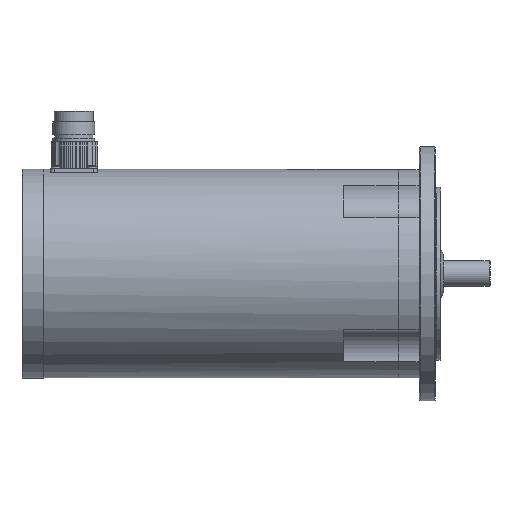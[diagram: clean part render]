
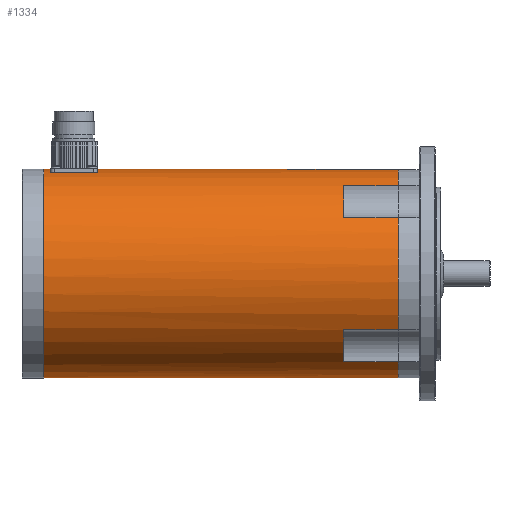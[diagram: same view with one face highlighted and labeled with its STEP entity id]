
A CAD part, left-side view. The second image highlights one B-rep face of the part: STEP entity #1334.
In plain terms, the highlighted cylindrical face has radius 57.5 mm (diameter 115 mm), a full revolution.
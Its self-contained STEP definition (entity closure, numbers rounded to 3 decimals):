
#281=LINE('',#8002,#437);
#282=LINE('',#8007,#438);
#283=LINE('',#8010,#439);
#284=LINE('',#8012,#440);
#285=LINE('',#8016,#441);
#286=LINE('',#8017,#442);
#287=LINE('',#8021,#443);
#288=LINE('',#8022,#444);
#289=LINE('',#8026,#445);
#290=LINE('',#8027,#446);
#437=VECTOR('',#6286,1.);
#438=VECTOR('',#6289,1.);
#439=VECTOR('',#6292,1.);
#440=VECTOR('',#6293,1.);
#441=VECTOR('',#6296,1.);
#442=VECTOR('',#6297,1.);
#443=VECTOR('',#6300,1.);
#444=VECTOR('',#6301,1.);
#445=VECTOR('',#6304,1.);
#446=VECTOR('',#6305,1.);
#803=CYLINDRICAL_SURFACE('',#5291,57.5);
#1041=FACE_BOUND('',#2115,.T.);
#1042=FACE_BOUND('',#2116,.T.);
#1043=FACE_BOUND('',#2117,.T.);
#1334=ADVANCED_FACE('',(#1041,#1042,#1043),#803,.T.);
#2115=EDGE_LOOP('',(#2764,#2765,#2766,#2767));
#2116=EDGE_LOOP('',(#2768,#2769,#2770,#2771,#2772,#2773,#2774,#2775,#2776,
#2777,#2778,#2779,#2780,#2781,#2782,#2783));
#2117=EDGE_LOOP('',(#2784));
#2764=ORIENTED_EDGE('',*,*,#4219,.F.);
#2765=ORIENTED_EDGE('',*,*,#4220,.F.);
#2766=ORIENTED_EDGE('',*,*,#4221,.F.);
#2767=ORIENTED_EDGE('',*,*,#4222,.F.);
#2768=ORIENTED_EDGE('',*,*,#4223,.F.);
#2769=ORIENTED_EDGE('',*,*,#4217,.T.);
#2770=ORIENTED_EDGE('',*,*,#4224,.F.);
#2771=ORIENTED_EDGE('',*,*,#4225,.F.);
#2772=ORIENTED_EDGE('',*,*,#4226,.F.);
#2773=ORIENTED_EDGE('',*,*,#4215,.T.);
#2774=ORIENTED_EDGE('',*,*,#4227,.F.);
#2775=ORIENTED_EDGE('',*,*,#4228,.F.);
#2776=ORIENTED_EDGE('',*,*,#4229,.F.);
#2777=ORIENTED_EDGE('',*,*,#4213,.T.);
#2778=ORIENTED_EDGE('',*,*,#4230,.F.);
#2779=ORIENTED_EDGE('',*,*,#4231,.F.);
#2780=ORIENTED_EDGE('',*,*,#4232,.F.);
#2781=ORIENTED_EDGE('',*,*,#4211,.T.);
#2782=ORIENTED_EDGE('',*,*,#4233,.F.);
#2783=ORIENTED_EDGE('',*,*,#4234,.F.);
#2784=ORIENTED_EDGE('',*,*,#4209,.T.);
#3742=VERTEX_POINT('',#7981);
#3743=VERTEX_POINT('',#7984);
#3744=VERTEX_POINT('',#7985);
#3745=VERTEX_POINT('',#7987);
#3746=VERTEX_POINT('',#7989);
#3747=VERTEX_POINT('',#7991);
#3748=VERTEX_POINT('',#7993);
#3749=VERTEX_POINT('',#7995);
#3750=VERTEX_POINT('',#7997);
#3752=VERTEX_POINT('',#8003);
#3753=VERTEX_POINT('',#8004);
#3754=VERTEX_POINT('',#8006);
#3755=VERTEX_POINT('',#8008);
#3756=VERTEX_POINT('',#8011);
#3757=VERTEX_POINT('',#8013);
#3758=VERTEX_POINT('',#8015);
#3759=VERTEX_POINT('',#8018);
#3760=VERTEX_POINT('',#8020);
#3761=VERTEX_POINT('',#8023);
#3762=VERTEX_POINT('',#8025);
#3763=VERTEX_POINT('',#8028);
#4209=EDGE_CURVE('',#3742,#3742,#4769,.T.);
#4211=EDGE_CURVE('',#3745,#3744,#4771,.T.);
#4213=EDGE_CURVE('',#3747,#3746,#4773,.T.);
#4215=EDGE_CURVE('',#3749,#3748,#4775,.T.);
#4217=EDGE_CURVE('',#3743,#3750,#4777,.T.);
#4219=EDGE_CURVE('',#3752,#3753,#281,.T.);
#4220=EDGE_CURVE('',#3754,#3752,#4779,.T.);
#4221=EDGE_CURVE('',#3755,#3754,#282,.T.);
#4222=EDGE_CURVE('',#3753,#3755,#4780,.T.);
#4223=EDGE_CURVE('',#3743,#3756,#283,.T.);
#4224=EDGE_CURVE('',#3757,#3750,#284,.T.);
#4225=EDGE_CURVE('',#3758,#3757,#4781,.T.);
#4226=EDGE_CURVE('',#3749,#3758,#285,.T.);
#4227=EDGE_CURVE('',#3759,#3748,#286,.T.);
#4228=EDGE_CURVE('',#3760,#3759,#4782,.T.);
#4229=EDGE_CURVE('',#3747,#3760,#287,.T.);
#4230=EDGE_CURVE('',#3761,#3746,#288,.T.);
#4231=EDGE_CURVE('',#3762,#3761,#4783,.T.);
#4232=EDGE_CURVE('',#3745,#3762,#289,.T.);
#4233=EDGE_CURVE('',#3763,#3744,#290,.T.);
#4234=EDGE_CURVE('',#3756,#3763,#4784,.T.);
#4769=CIRCLE('',#5273,57.5);
#4771=CIRCLE('',#5276,57.5);
#4773=CIRCLE('',#5278,57.5);
#4775=CIRCLE('',#5280,57.5);
#4777=CIRCLE('',#5282,57.5);
#4779=CIRCLE('',#5285,57.5);
#4780=CIRCLE('',#5286,57.5);
#4781=CIRCLE('',#5287,57.5);
#4782=CIRCLE('',#5288,57.5);
#4783=CIRCLE('',#5289,57.5);
#4784=CIRCLE('',#5290,57.5);
#5273=AXIS2_PLACEMENT_3D('',#7980,#6262,#6263);
#5276=AXIS2_PLACEMENT_3D('',#7986,#6268,#6269);
#5278=AXIS2_PLACEMENT_3D('',#7990,#6272,#6273);
#5280=AXIS2_PLACEMENT_3D('',#7994,#6276,#6277);
#5282=AXIS2_PLACEMENT_3D('',#7998,#6280,#6281);
#5285=AXIS2_PLACEMENT_3D('',#8005,#6287,#6288);
#5286=AXIS2_PLACEMENT_3D('',#8009,#6290,#6291);
#5287=AXIS2_PLACEMENT_3D('',#8014,#6294,#6295);
#5288=AXIS2_PLACEMENT_3D('',#8019,#6298,#6299);
#5289=AXIS2_PLACEMENT_3D('',#8024,#6302,#6303);
#5290=AXIS2_PLACEMENT_3D('',#8029,#6306,#6307);
#5291=AXIS2_PLACEMENT_3D('',#8030,#6308,#6309);
#6262=DIRECTION('',(0.,-1.,0.));
#6263=DIRECTION('',(0.,0.,-1.));
#6268=DIRECTION('',(0.,1.,0.));
#6269=DIRECTION('',(0.,0.,1.));
#6272=DIRECTION('',(0.,1.,0.));
#6273=DIRECTION('',(0.,0.,1.));
#6276=DIRECTION('',(0.,1.,0.));
#6277=DIRECTION('',(0.,0.,1.));
#6280=DIRECTION('',(0.,1.,0.));
#6281=DIRECTION('',(0.,0.,1.));
#6286=DIRECTION('',(0.,-1.,0.));
#6287=DIRECTION('',(0.,-1.,0.));
#6288=DIRECTION('',(0.,0.,1.));
#6289=DIRECTION('',(0.,1.,0.));
#6290=DIRECTION('',(0.,1.,0.));
#6291=DIRECTION('',(0.,0.,-1.));
#6292=DIRECTION('',(0.,1.,0.));
#6293=DIRECTION('',(0.,-1.,0.));
#6294=DIRECTION('',(0.,-1.,0.));
#6295=DIRECTION('',(0.,0.,1.));
#6296=DIRECTION('',(0.,1.,0.));
#6297=DIRECTION('',(0.,-1.,0.));
#6298=DIRECTION('',(0.,-1.,0.));
#6299=DIRECTION('',(0.,0.,1.));
#6300=DIRECTION('',(0.,1.,0.));
#6301=DIRECTION('',(0.,-1.,0.));
#6302=DIRECTION('',(0.,-1.,0.));
#6303=DIRECTION('',(0.,0.,1.));
#6304=DIRECTION('',(0.,1.,0.));
#6305=DIRECTION('',(0.,-1.,0.));
#6306=DIRECTION('',(0.,-1.,0.));
#6307=DIRECTION('',(0.,0.,1.));
#6308=DIRECTION('',(0.,1.,0.));
#6309=DIRECTION('',(0.,0.,1.));
#7980=CARTESIAN_POINT('',(0.,195.,0.));
#7981=CARTESIAN_POINT('',(0.,195.,-57.5));
#7984=CARTESIAN_POINT('',(-30.889,0.,48.498));
#7985=CARTESIAN_POINT('',(-48.498,0.,30.889));
#7986=CARTESIAN_POINT('',(0.,0.,0.));
#7987=CARTESIAN_POINT('',(-48.498,0.,-30.889));
#7989=CARTESIAN_POINT('',(-30.889,0.,-48.498));
#7990=CARTESIAN_POINT('',(0.,0.,0.));
#7991=CARTESIAN_POINT('',(30.889,0.,-48.498));
#7993=CARTESIAN_POINT('',(48.498,0.,-30.889));
#7994=CARTESIAN_POINT('',(0.,0.,0.));
#7995=CARTESIAN_POINT('',(48.498,0.,30.889));
#7997=CARTESIAN_POINT('',(30.889,0.,48.498));
#7998=CARTESIAN_POINT('',(0.,0.,0.));
#8002=CARTESIAN_POINT('',(-15.,0.,55.509));
#8003=CARTESIAN_POINT('',(-15.,191.5,55.509));
#8004=CARTESIAN_POINT('',(-15.,165.5,55.509));
#8005=CARTESIAN_POINT('',(0.,191.5,0.));
#8006=CARTESIAN_POINT('',(15.,191.5,55.509));
#8007=CARTESIAN_POINT('',(15.,0.,55.509));
#8008=CARTESIAN_POINT('',(15.,165.5,55.509));
#8009=CARTESIAN_POINT('',(0.,165.5,0.));
#8010=CARTESIAN_POINT('',(-30.889,15.,48.498));
#8011=CARTESIAN_POINT('',(-30.889,30.,48.498));
#8012=CARTESIAN_POINT('',(30.889,15.,48.498));
#8013=CARTESIAN_POINT('',(30.889,30.,48.498));
#8014=CARTESIAN_POINT('',(0.,30.,0.));
#8015=CARTESIAN_POINT('',(48.498,30.,30.889));
#8016=CARTESIAN_POINT('',(48.498,15.,30.889));
#8017=CARTESIAN_POINT('',(48.498,15.,-30.889));
#8018=CARTESIAN_POINT('',(48.498,30.,-30.889));
#8019=CARTESIAN_POINT('',(0.,30.,0.));
#8020=CARTESIAN_POINT('',(30.889,30.,-48.498));
#8021=CARTESIAN_POINT('',(30.889,15.,-48.498));
#8022=CARTESIAN_POINT('',(-30.889,15.,-48.498));
#8023=CARTESIAN_POINT('',(-30.889,30.,-48.498));
#8024=CARTESIAN_POINT('',(0.,30.,0.));
#8025=CARTESIAN_POINT('',(-48.498,30.,-30.889));
#8026=CARTESIAN_POINT('',(-48.498,15.,-30.889));
#8027=CARTESIAN_POINT('',(-48.498,15.,30.889));
#8028=CARTESIAN_POINT('',(-48.498,30.,30.889));
#8029=CARTESIAN_POINT('',(0.,30.,0.));
#8030=CARTESIAN_POINT('',(0.,0.,0.));
